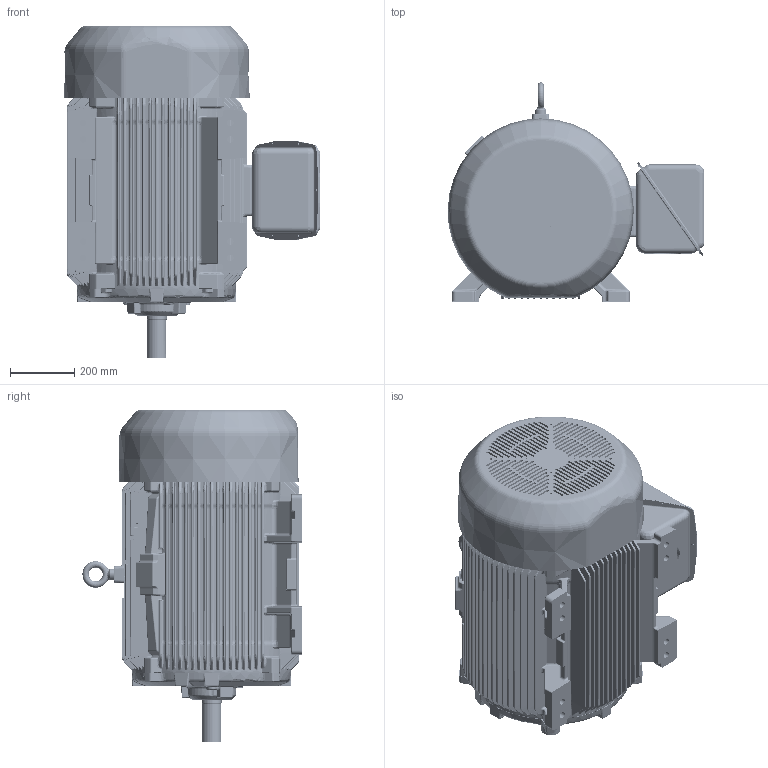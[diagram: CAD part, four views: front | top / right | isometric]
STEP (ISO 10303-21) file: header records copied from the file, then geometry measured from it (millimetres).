
FILE_DESCRIPTION((''),'2;1');
FILE_NAME('440_3D_ASM_ASM','2018-07-25T10:21:20',('EMD2341'),('Nidec Motor Corporation'),'CREO PARAMETRIC BY PTC INC, 2018020','CREO PARAMETRIC BY PTC INC, 2018020','');
FILE_SCHEMA(('CONFIG_CONTROL_DESIGN'));
Length unit declared in the file: inch
Products named in the file (10): 440_FOOTED_FRAME; 0011046; 440_TS; 440_STL_FCVR; 440_STL_GSK_OBB; 440_STL_OBB; 440_STL_GSK_OBC; 440_STL_OBC; 440_ODE_BRKT; 440_3D_ASM_ASM
Assembly tree (9 placements, depth 2):
  440_3D_ASM_ASM
    440_FOOTED_FRAME
    0011046
    440_TS
    440_STL_FCVR
    440_STL_GSK_OBB
    440_STL_OBB
    440_STL_GSK_OBC
    440_STL_OBC
    440_ODE_BRKT
Bounding box: 797.66 x 681.1 x 1031.75 mm (x, y, z)
Volume: 210899677.8 mm3; surface area: 5992397.1 mm2
Topology: 9 solids, 10 shells, 6075 faces, 13894 edges, 7959 vertices
Faces by surface type: bspline 2616, cylinder 1383, plane 1225, torus 378, extrusion 342, sphere 78, cone 53
Entity records: 275033 total; most frequent: CARTESIAN_POINT 156419, ORIENTED_EDGE 27782, DIRECTION 19650, EDGE_CURVE 13893, VERTEX_POINT 7959, AXIS2_PLACEMENT_3D 7378, EDGE_LOOP 6230, FACE_OUTER_BOUND 6075
